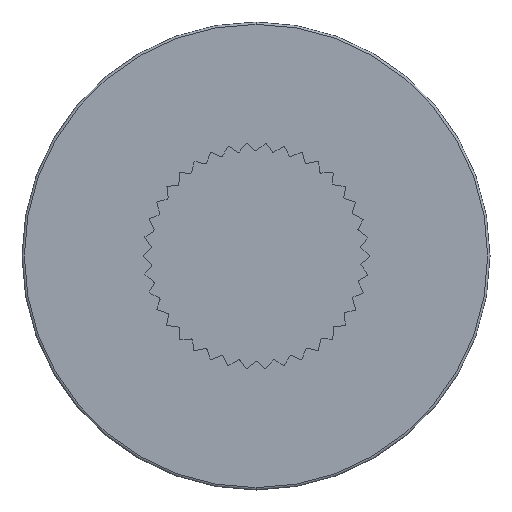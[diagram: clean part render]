
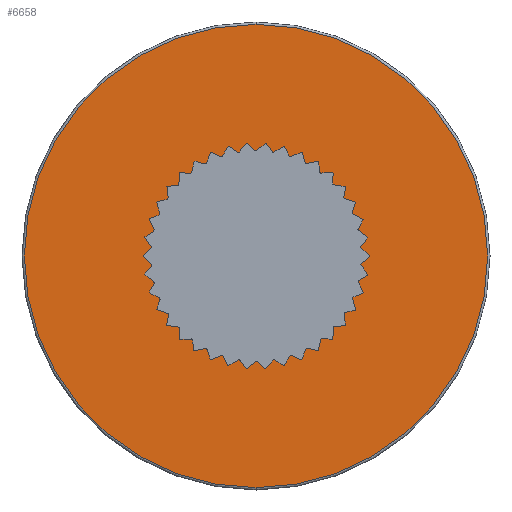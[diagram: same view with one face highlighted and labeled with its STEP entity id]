
A CAD part, front view. The second image highlights one B-rep face of the part: STEP entity #6658.
In plain terms, the highlighted planar face has unit normal (0, -1, 0).
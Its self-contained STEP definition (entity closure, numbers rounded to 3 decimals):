
#181 = EDGE_CURVE ( 'NONE', #1000, #1327, #4111, .T. ) ;
#437 = DIRECTION ( 'NONE',  ( 0., 0., 1. ) ) ;
#511 = EDGE_CURVE ( 'NONE', #1327, #1000, #7779, .T. ) ;
#858 = DIRECTION ( 'NONE',  ( 0., -1., 0. ) ) ;
#1000 = VERTEX_POINT ( 'NONE', #7630 ) ;
#1327 = VERTEX_POINT ( 'NONE', #1835 ) ;
#1453 = CARTESIAN_POINT ( 'NONE',  ( 0., 375., 0. ) ) ;
#1484 = AXIS2_PLACEMENT_3D ( 'NONE', #1453, #858, #5077 ) ;
#1575 = DIRECTION ( 'NONE',  ( 0., 1., 0. ) ) ;
#1835 = CARTESIAN_POINT ( 'NONE',  ( 0., 375., 396. ) ) ;
#2701 = PLANE ( 'NONE',  #6500 ) ;
#2880 = DIRECTION ( 'NONE',  ( 0., -1., 0. ) ) ;
#3272 = ORIENTED_EDGE ( 'NONE', *, *, #181, .T. ) ;
#3972 = DIRECTION ( 'NONE',  ( 0., 0., 1. ) ) ;
#4111 = CIRCLE ( 'NONE', #4247, 396. ) ;
#4247 = AXIS2_PLACEMENT_3D ( 'NONE', #5185, #2880, #437 ) ;
#4529 = CARTESIAN_POINT ( 'NONE',  ( 0., 375., 0. ) ) ;
#5077 = DIRECTION ( 'NONE',  ( 0., 0., 1. ) ) ;
#5185 = CARTESIAN_POINT ( 'NONE',  ( 0., 375., 0. ) ) ;
#5517 = EDGE_LOOP ( 'NONE', ( #7050, #3272 ) ) ;
#5707 = FACE_OUTER_BOUND ( 'NONE', #5517, .T. ) ;
#6500 = AXIS2_PLACEMENT_3D ( 'NONE', #4529, #1575, #3972 ) ;
#6658 = ADVANCED_FACE ( 'NONE', ( #5707 ), #2701, .F. ) ;
#7050 = ORIENTED_EDGE ( 'NONE', *, *, #511, .T. ) ;
#7630 = CARTESIAN_POINT ( 'NONE',  ( 0., 375., -396. ) ) ;
#7779 = CIRCLE ( 'NONE', #1484, 396. ) ;
